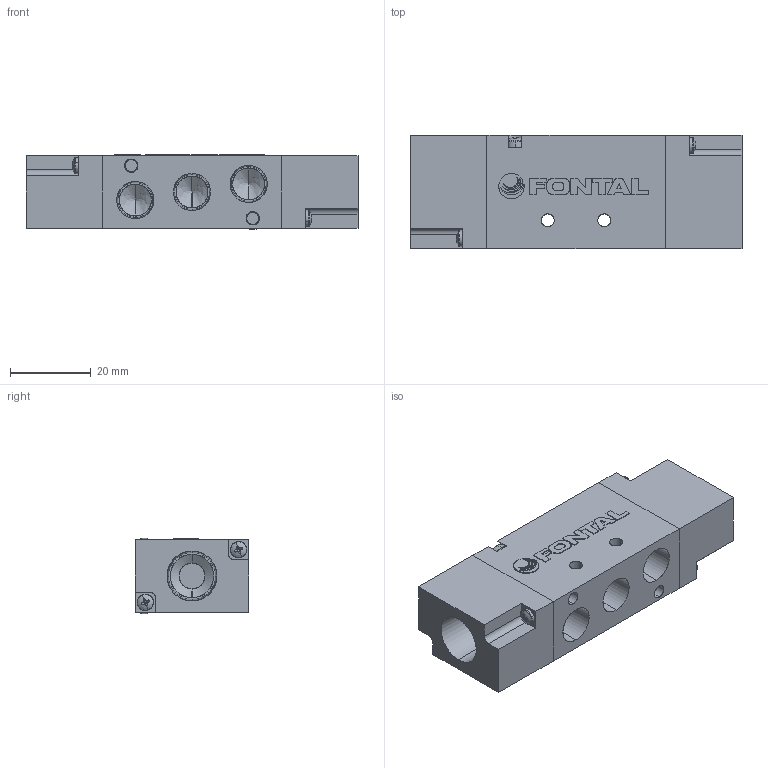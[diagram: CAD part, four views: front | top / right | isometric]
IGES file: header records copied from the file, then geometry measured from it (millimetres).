
Start section: SolidWorks IGES file using analytic representation for surfaces
Global section: file name: D:\Custom\3D繪製\VC\YC13\YCD2413-01.IGS,1; native system: 5HSolidWorks 2014; preprocessor: SolidWorks 2014; author: Chieh_Lu; date: 160114.021840; units: millimetre
Bounding box: 82 x 28 x 18.6 mm (x, y, z)
Surface area: 15510.9 mm2 (no closed solid volume)
Topology: 0 solids, 0 shells, 458 faces, 4542 edges, 4520 vertices
Faces by surface type: bspline 270, revolution 188
